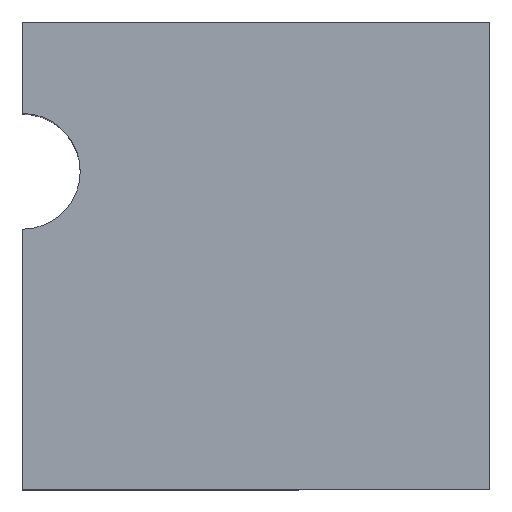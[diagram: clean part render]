
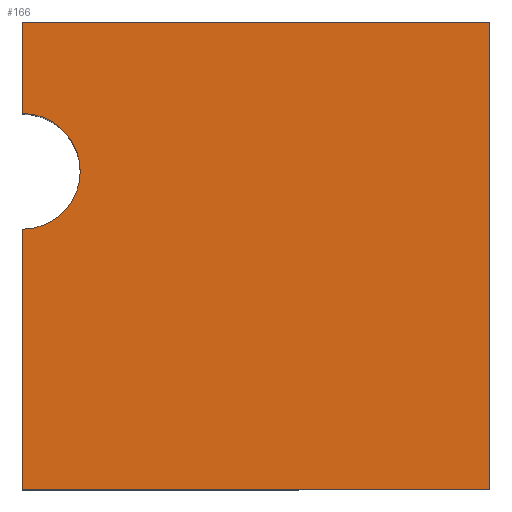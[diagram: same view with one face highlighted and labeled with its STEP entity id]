
A CAD part, top view. The second image highlights one B-rep face of the part: STEP entity #166.
In plain terms, the highlighted planar face has unit normal (0, 0, 1).
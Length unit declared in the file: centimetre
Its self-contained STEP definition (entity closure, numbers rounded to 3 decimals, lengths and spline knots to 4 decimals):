
#3 = CARTESIAN_POINT ( 'NONE',  ( 0., 0., 1000. ) ) ;
#4 = CARTESIAN_POINT ( 'NONE',  ( 0., 0., 1000. ) ) ;
#8 = FACE_OUTER_BOUND ( 'NONE', #242, .T. ) ;
#9 = DIRECTION ( 'NONE',  ( 0., 0., 1. ) ) ;
#21 = EDGE_CURVE ( 'NONE', #122, #369, #435, .T. ) ;
#40 = EDGE_CURVE ( 'NONE', #419, #268, #288, .T. ) ;
#56 = CIRCLE ( 'NONE', #216, 123.8346 ) ;
#60 = VECTOR ( 'NONE', #156, 100. ) ;
#65 = CARTESIAN_POINT ( 'NONE',  ( 1000., 0., 1000. ) ) ;
#74 = CARTESIAN_POINT ( 'NONE',  ( 0., 1000., 1000. ) ) ;
#78 = DIRECTION ( 'NONE',  ( 0., 0., 1. ) ) ;
#89 = DIRECTION ( 'NONE',  ( 1., 0., 0. ) ) ;
#95 = CARTESIAN_POINT ( 'NONE',  ( 1000., 1000., 1000. ) ) ;
#98 = LINE ( 'NONE', #95, #460 ) ;
#113 = VECTOR ( 'NONE', #136, 100. ) ;
#114 = CARTESIAN_POINT ( 'NONE',  ( 0., 1000., 1000. ) ) ;
#117 = CARTESIAN_POINT ( 'NONE',  ( 0., 680.3644, 1000. ) ) ;
#122 = VERTEX_POINT ( 'NONE', #467 ) ;
#136 = DIRECTION ( 'NONE',  ( -1., 0., 0. ) ) ;
#145 = EDGE_CURVE ( 'NONE', #122, #281, #384, .T. ) ;
#156 = DIRECTION ( 'NONE',  ( 1., 0., 0. ) ) ;
#158 = CARTESIAN_POINT ( 'NONE',  ( 0., 0., 1000. ) ) ;
#165 = ORIENTED_EDGE ( 'NONE', *, *, #40, .T. ) ;
#166 = ADVANCED_FACE ( 'NONE', ( #8 ), #342, .T. ) ;
#171 = ORIENTED_EDGE ( 'NONE', *, *, #145, .F. ) ;
#172 = EDGE_CURVE ( 'NONE', #369, #280, #371, .T. ) ;
#186 = CARTESIAN_POINT ( 'NONE',  ( 123.8346, 680.3644, 1000. ) ) ;
#203 = DIRECTION ( 'NONE',  ( 0., 0., 1. ) ) ;
#216 = AXIS2_PLACEMENT_3D ( 'NONE', #468, #9, #89 ) ;
#217 = ORIENTED_EDGE ( 'NONE', *, *, #221, .T. ) ;
#221 = EDGE_CURVE ( 'NONE', #280, #235, #98, .T. ) ;
#227 = EDGE_CURVE ( 'NONE', #235, #419, #461, .T. ) ;
#228 = CARTESIAN_POINT ( 'NONE',  ( 0., 1000., 1000. ) ) ;
#235 = VERTEX_POINT ( 'NONE', #273 ) ;
#242 = EDGE_LOOP ( 'NONE', ( #171, #387, #324, #217, #390, #165, #422 ) ) ;
#250 = VECTOR ( 'NONE', #336, 100. ) ;
#268 = VERTEX_POINT ( 'NONE', #418 ) ;
#273 = CARTESIAN_POINT ( 'NONE',  ( 1000., 1000., 1000. ) ) ;
#274 = VECTOR ( 'NONE', #359, 100. ) ;
#277 = AXIS2_PLACEMENT_3D ( 'NONE', #4, #78, #410 ) ;
#280 = VERTEX_POINT ( 'NONE', #65 ) ;
#281 = VERTEX_POINT ( 'NONE', #186 ) ;
#288 = LINE ( 'NONE', #114, #274 ) ;
#310 = DIRECTION ( 'NONE',  ( 1., 0., 0. ) ) ;
#321 = EDGE_CURVE ( 'NONE', #281, #268, #56, .T. ) ;
#322 = DIRECTION ( 'NONE',  ( 0., 1., 0. ) ) ;
#324 = ORIENTED_EDGE ( 'NONE', *, *, #172, .T. ) ;
#336 = DIRECTION ( 'NONE',  ( 0., -1., 0. ) ) ;
#342 = PLANE ( 'NONE',  #277 ) ;
#357 = AXIS2_PLACEMENT_3D ( 'NONE', #117, #203, #310 ) ;
#359 = DIRECTION ( 'NONE',  ( 0., -1., 0. ) ) ;
#369 = VERTEX_POINT ( 'NONE', #158 ) ;
#371 = LINE ( 'NONE', #3, #60 ) ;
#381 = CARTESIAN_POINT ( 'NONE',  ( 0., 1000., 1000. ) ) ;
#384 = CIRCLE ( 'NONE', #357, 123.8346 ) ;
#387 = ORIENTED_EDGE ( 'NONE', *, *, #21, .T. ) ;
#390 = ORIENTED_EDGE ( 'NONE', *, *, #227, .T. ) ;
#410 = DIRECTION ( 'NONE',  ( 1., 0., 0. ) ) ;
#418 = CARTESIAN_POINT ( 'NONE',  ( 0., 804.199, 1000. ) ) ;
#419 = VERTEX_POINT ( 'NONE', #228 ) ;
#422 = ORIENTED_EDGE ( 'NONE', *, *, #321, .F. ) ;
#435 = LINE ( 'NONE', #74, #250 ) ;
#460 = VECTOR ( 'NONE', #322, 100. ) ;
#461 = LINE ( 'NONE', #381, #113 ) ;
#467 = CARTESIAN_POINT ( 'NONE',  ( 0., 556.5299, 1000. ) ) ;
#468 = CARTESIAN_POINT ( 'NONE',  ( 0., 680.3644, 1000. ) ) ;
